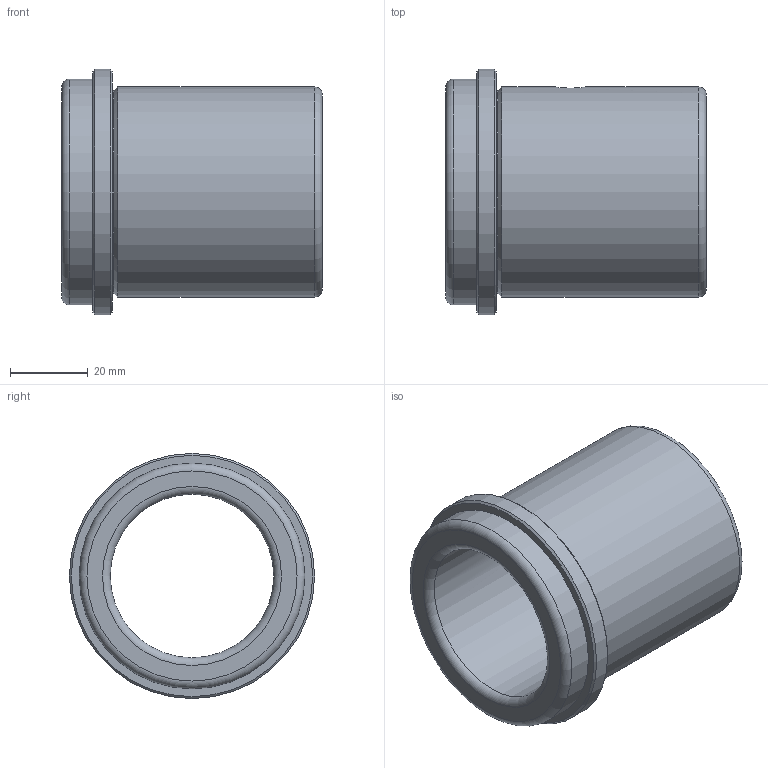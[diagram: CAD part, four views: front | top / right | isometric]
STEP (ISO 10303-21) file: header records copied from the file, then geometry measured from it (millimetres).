
FILE_DESCRIPTION( ( 'STEP AP214' ), '1' );
FILE_NAME( 'p:/temp/worker_112/temp/exporttempdir_5012_186_Uxo5f/format_1/WZ - 4032 42 x 67.stp', '2020-12-03T19:42:55', ( 'License CC BY-ND 4.0' ), ( 'CADENAS' ), ' ', 'PARTsolutions', ' ' );
FILE_SCHEMA( ( 'AUTOMOTIVE_DESIGN { 1 0 10303 214 1 1 1 1 }' ) );
Length unit declared in the file: millimetre
Products named in the file (1): _WZ - 4032 42 x 67
Bounding box: 67 x 63 x 63 mm (x, y, z)
Volume: 66212.6 mm3; surface area: 23783.9 mm2
Topology: 1 solids, 1 shells, 19 faces, 34 edges, 20 vertices
Faces by surface type: cylinder 6, plane 5, torus 4, cone 4
Full cylindrical faces by diameter (mm): 8 x1, 42 x1, 52 x1, 54 x1, 58 x1, 63 x1
Entity records: 694 total; most frequent: CARTESIAN_POINT 190, DIRECTION 76, EDGE_LOOP 40, ORIENTED_EDGE 40, AXIS2_PLACEMENT_3D 38, FACE_OUTER_BOUND 29, EDGE_CURVE 20, VERTEX_POINT 20
